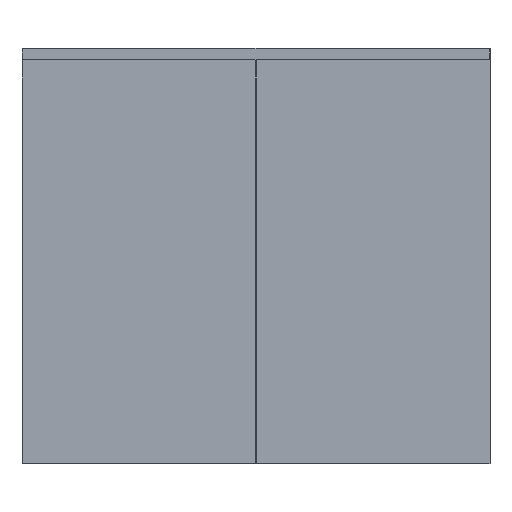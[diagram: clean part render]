
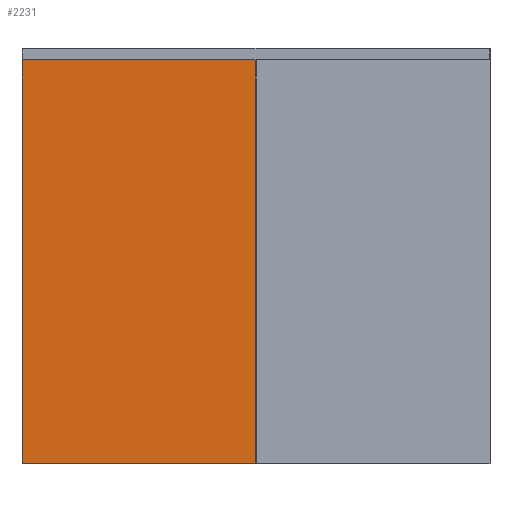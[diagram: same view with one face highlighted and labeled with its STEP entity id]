
A CAD part, top view. The second image highlights one B-rep face of the part: STEP entity #2231.
In plain terms, the highlighted planar face has unit normal (0, 0, 1) as drawn and (0, -1, 0) by its records, which use the part's own axes.
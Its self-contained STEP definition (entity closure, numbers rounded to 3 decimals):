
#32 = ORIENTED_EDGE ( 'NONE', *, *, #1280, .F. ) ;
#119 = DIRECTION ( 'NONE',  ( -1., 0., 0. ) ) ;
#214 = LINE ( 'NONE', #644, #912 ) ;
#250 = FACE_OUTER_BOUND ( 'NONE', #2360, .T. ) ;
#266 = EDGE_CURVE ( 'NONE', #2214, #841, #214, .T. ) ;
#412 = VERTEX_POINT ( 'NONE', #736 ) ;
#423 = EDGE_CURVE ( 'NONE', #412, #2263, #1089, .T. ) ;
#480 = CARTESIAN_POINT ( 'NONE',  ( -200., 0., -345. ) ) ;
#484 = DIRECTION ( 'NONE',  ( 0., 0., -1. ) ) ;
#498 = DIRECTION ( 'NONE',  ( 0., 0., 1. ) ) ;
#504 = EDGE_CURVE ( 'NONE', #841, #412, #1982, .T. ) ;
#644 = CARTESIAN_POINT ( 'NONE',  ( -200., 0., 345. ) ) ;
#707 = DIRECTION ( 'NONE',  ( 0., -1., 0. ) ) ;
#736 = CARTESIAN_POINT ( 'NONE',  ( 200., 0., -345. ) ) ;
#784 = DIRECTION ( 'NONE',  ( 0., 0., -1. ) ) ;
#841 = VERTEX_POINT ( 'NONE', #1603 ) ;
#908 = CARTESIAN_POINT ( 'NONE',  ( 0., 0., 0. ) ) ;
#912 = VECTOR ( 'NONE', #1631, 1000. ) ;
#941 = ORIENTED_EDGE ( 'NONE', *, *, #266, .F. ) ;
#1089 = LINE ( 'NONE', #480, #1422 ) ;
#1096 = CARTESIAN_POINT ( 'NONE',  ( -200., 0., 345. ) ) ;
#1233 = VECTOR ( 'NONE', #498, 1000. ) ;
#1262 = CARTESIAN_POINT ( 'NONE',  ( -200., 0., 345. ) ) ;
#1265 = LINE ( 'NONE', #1096, #1233 ) ;
#1280 = EDGE_CURVE ( 'NONE', #2263, #2214, #1265, .T. ) ;
#1422 = VECTOR ( 'NONE', #119, 1000. ) ;
#1490 = ORIENTED_EDGE ( 'NONE', *, *, #423, .F. ) ;
#1603 = CARTESIAN_POINT ( 'NONE',  ( 200., 0., 345. ) ) ;
#1631 = DIRECTION ( 'NONE',  ( 1., 0., 0. ) ) ;
#1882 = CARTESIAN_POINT ( 'NONE',  ( -200., 0., -345. ) ) ;
#1912 = ORIENTED_EDGE ( 'NONE', *, *, #504, .F. ) ;
#1973 = CARTESIAN_POINT ( 'NONE',  ( 200., 0., 345. ) ) ;
#1982 = LINE ( 'NONE', #1973, #2275 ) ;
#2214 = VERTEX_POINT ( 'NONE', #1262 ) ;
#2231 = ADVANCED_FACE ( 'NONE', ( #250 ), #2488, .T. ) ;
#2263 = VERTEX_POINT ( 'NONE', #1882 ) ;
#2275 = VECTOR ( 'NONE', #784, 1000. ) ;
#2360 = EDGE_LOOP ( 'NONE', ( #1912, #941, #32, #1490 ) ) ;
#2377 = AXIS2_PLACEMENT_3D ( 'NONE', #908, #707, #484 ) ;
#2488 = PLANE ( 'NONE',  #2377 ) ;
